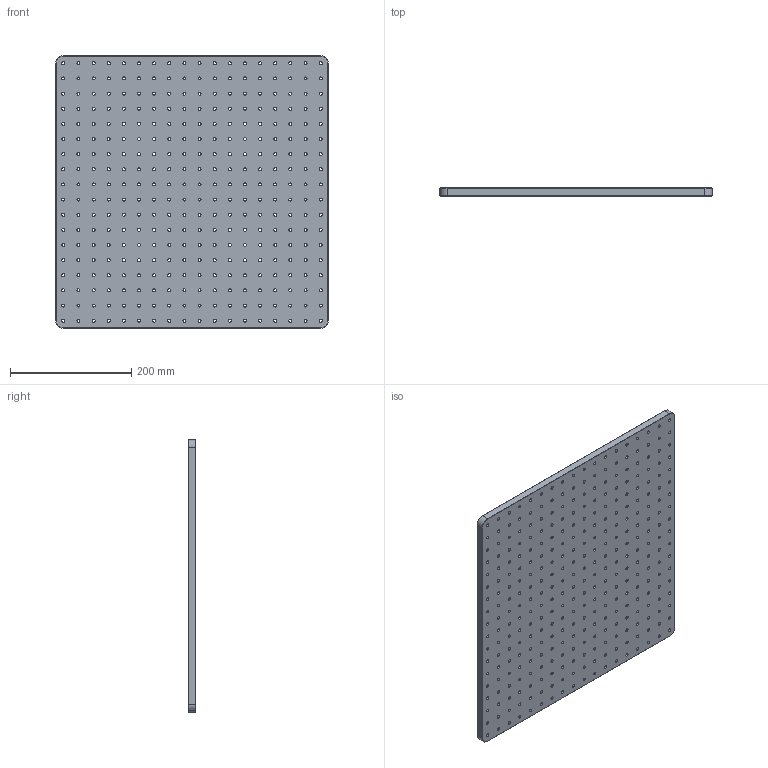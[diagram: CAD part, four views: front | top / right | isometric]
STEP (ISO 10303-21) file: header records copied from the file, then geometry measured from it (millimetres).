
FILE_DESCRIPTION (( 'STEP AP203' ), '1' );
FILE_NAME ('GOB-454513.STEP', '2018-03-16T07:15:44', ( '' ), ( '' ), 'SwSTEP 2.0', 'SolidWorks 2016', '' );
FILE_SCHEMA (( 'CONFIG_CONTROL_DESIGN' ));
Length unit declared in the file: millimetre
Products named in the file (1): GOB-454513
Bounding box: 450 x 13 x 450 mm (x, y, z)
Volume: 2547609.6 mm3; surface area: 480248.8 mm2
Topology: 1 solids, 1 shells, 674 faces, 2000 edges, 1328 vertices
Faces by surface type: cylinder 652, plane 14, cone 8
Entity records: 24741 total; most frequent: DIRECTION 4662, CARTESIAN_POINT 4003, ORIENTED_EDGE 4000, EDGE_CURVE 2000, AXIS2_PLACEMENT_3D 1987, VERTEX_POINT 1328, EDGE_LOOP 1322, CIRCLE 1312
